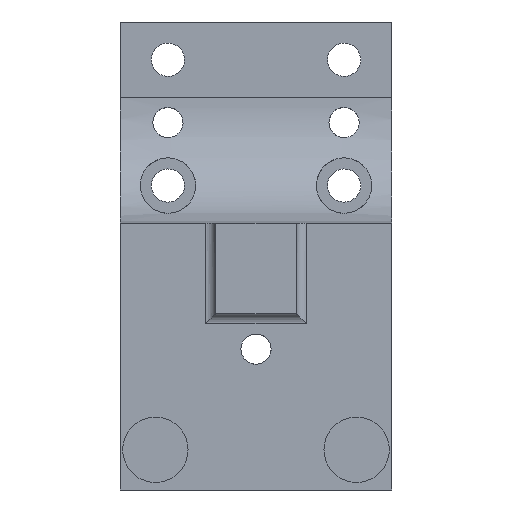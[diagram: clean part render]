
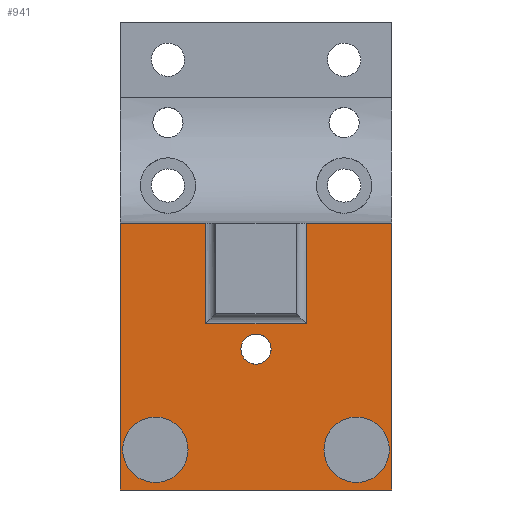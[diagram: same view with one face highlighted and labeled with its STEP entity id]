
A CAD part, front view. The second image highlights one B-rep face of the part: STEP entity #941.
In plain terms, the highlighted planar face has unit normal (0, -1, 0).
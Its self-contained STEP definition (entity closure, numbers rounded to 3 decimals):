
#98=CARTESIAN_POINT('Vertex',(27.,-18.,25.)) ;
#101=CARTESIAN_POINT('Line Origine',(27.,-18.,-1.5)) ;
#105=CARTESIAN_POINT('Vertex',(27.,-18.,-28.)) ;
#240=CARTESIAN_POINT('Vertex',(-27.,-18.,-28.)) ;
#243=CARTESIAN_POINT('Line Origine',(-27.,-18.,-1.5)) ;
#247=CARTESIAN_POINT('Vertex',(-27.,-18.,25.)) ;
#720=CARTESIAN_POINT('Vertex',(-10.,-18.,25.)) ;
#750=CARTESIAN_POINT('Vertex',(10.,-18.,25.)) ;
#753=CARTESIAN_POINT('Line Origine',(18.5,-18.,25.)) ;
#758=CARTESIAN_POINT('Line Origine',(-18.5,-18.,25.)) ;
#848=CARTESIAN_POINT('Axis2P3D Location',(0.,-18.,25.)) ;
#853=CARTESIAN_POINT('Line Origine',(0.,-18.,-28.)) ;
#858=CARTESIAN_POINT('Line Origine',(10.,-18.,15.)) ;
#862=CARTESIAN_POINT('Vertex',(10.,-18.,5.)) ;
#865=CARTESIAN_POINT('Line Origine',(0.,-18.,5.)) ;
#869=CARTESIAN_POINT('Vertex',(-10.,-18.,5.)) ;
#872=CARTESIAN_POINT('Line Origine',(-10.,-18.,15.)) ;
#887=CARTESIAN_POINT('Axis2P3D Location',(-20.,-18.,-20.)) ;
#891=CARTESIAN_POINT('Vertex',(-13.5,-18.,-20.)) ;
#893=CARTESIAN_POINT('Vertex',(-26.5,-18.,-20.)) ;
#896=CARTESIAN_POINT('Axis2P3D Location',(-20.,-18.,-20.)) ;
#905=CARTESIAN_POINT('Axis2P3D Location',(20.,-18.,-20.)) ;
#909=CARTESIAN_POINT('Vertex',(26.5,-18.,-20.)) ;
#911=CARTESIAN_POINT('Vertex',(13.5,-18.,-20.)) ;
#914=CARTESIAN_POINT('Axis2P3D Location',(20.,-18.,-20.)) ;
#923=CARTESIAN_POINT('Axis2P3D Location',(0.,-18.,0.)) ;
#927=CARTESIAN_POINT('Vertex',(-2.633,-18.,1.438)) ;
#929=CARTESIAN_POINT('Vertex',(2.633,-18.,-1.438)) ;
#932=CARTESIAN_POINT('Axis2P3D Location',(0.,-18.,0.)) ;
#102=DIRECTION('Vector Direction',(0.,0.,-1.)) ;
#244=DIRECTION('Vector Direction',(0.,0.,-1.)) ;
#754=DIRECTION('Vector Direction',(1.,0.,0.)) ;
#759=DIRECTION('Vector Direction',(1.,0.,0.)) ;
#849=DIRECTION('Axis2P3D Direction',(0.,-1.,0.)) ;
#850=DIRECTION('Axis2P3D XDirection',(0.,0.,-1.)) ;
#854=DIRECTION('Vector Direction',(1.,0.,0.)) ;
#859=DIRECTION('Vector Direction',(0.,0.,1.)) ;
#866=DIRECTION('Vector Direction',(-1.,0.,0.)) ;
#873=DIRECTION('Vector Direction',(0.,0.,-1.)) ;
#888=DIRECTION('Axis2P3D Direction',(0.,-1.,0.)) ;
#897=DIRECTION('Axis2P3D Direction',(0.,-1.,0.)) ;
#906=DIRECTION('Axis2P3D Direction',(0.,-1.,0.)) ;
#915=DIRECTION('Axis2P3D Direction',(0.,-1.,0.)) ;
#924=DIRECTION('Axis2P3D Direction',(0.,-1.,0.)) ;
#933=DIRECTION('Axis2P3D Direction',(0.,-1.,0.)) ;
#851=AXIS2_PLACEMENT_3D('Plane Axis2P3D',#848,#849,#850) ;
#889=AXIS2_PLACEMENT_3D('Circle Axis2P3D',#887,#888,$) ;
#898=AXIS2_PLACEMENT_3D('Circle Axis2P3D',#896,#897,$) ;
#907=AXIS2_PLACEMENT_3D('Circle Axis2P3D',#905,#906,$) ;
#916=AXIS2_PLACEMENT_3D('Circle Axis2P3D',#914,#915,$) ;
#925=AXIS2_PLACEMENT_3D('Circle Axis2P3D',#923,#924,$) ;
#934=AXIS2_PLACEMENT_3D('Circle Axis2P3D',#932,#933,$) ;
#878=ORIENTED_EDGE('',*,*,#762,.F.) ;
#879=ORIENTED_EDGE('',*,*,#249,.T.) ;
#880=ORIENTED_EDGE('',*,*,#857,.T.) ;
#881=ORIENTED_EDGE('',*,*,#107,.F.) ;
#882=ORIENTED_EDGE('',*,*,#757,.F.) ;
#883=ORIENTED_EDGE('',*,*,#864,.T.) ;
#884=ORIENTED_EDGE('',*,*,#871,.T.) ;
#885=ORIENTED_EDGE('',*,*,#876,.T.) ;
#902=ORIENTED_EDGE('',*,*,#895,.F.) ;
#903=ORIENTED_EDGE('',*,*,#900,.F.) ;
#920=ORIENTED_EDGE('',*,*,#913,.F.) ;
#921=ORIENTED_EDGE('',*,*,#918,.F.) ;
#938=ORIENTED_EDGE('',*,*,#931,.F.) ;
#939=ORIENTED_EDGE('',*,*,#936,.F.) ;
#904=FACE_BOUND('',#901,.T.) ;
#922=FACE_BOUND('',#919,.T.) ;
#940=FACE_BOUND('',#937,.T.) ;
#103=VECTOR('Line Direction',#102,1.) ;
#245=VECTOR('Line Direction',#244,1.) ;
#755=VECTOR('Line Direction',#754,1.) ;
#760=VECTOR('Line Direction',#759,1.) ;
#855=VECTOR('Line Direction',#854,1.) ;
#860=VECTOR('Line Direction',#859,1.) ;
#867=VECTOR('Line Direction',#866,1.) ;
#874=VECTOR('Line Direction',#873,1.) ;
#941=ADVANCED_FACE('PartBody',(#886,#904,#922,#940),#852,.T.) ;
#890=CIRCLE('generated circle',#889,6.5) ;
#899=CIRCLE('generated circle',#898,6.5) ;
#908=CIRCLE('generated circle',#907,6.5) ;
#917=CIRCLE('generated circle',#916,6.5) ;
#926=CIRCLE('generated circle',#925,3.) ;
#935=CIRCLE('generated circle',#934,3.) ;
#107=EDGE_CURVE('',#99,#106,#104,.T.) ;
#249=EDGE_CURVE('',#248,#241,#246,.T.) ;
#757=EDGE_CURVE('',#751,#99,#756,.T.) ;
#762=EDGE_CURVE('',#248,#721,#761,.T.) ;
#857=EDGE_CURVE('',#241,#106,#856,.T.) ;
#864=EDGE_CURVE('',#751,#863,#861,.F.) ;
#871=EDGE_CURVE('',#863,#870,#868,.T.) ;
#876=EDGE_CURVE('',#870,#721,#875,.F.) ;
#895=EDGE_CURVE('',#892,#894,#890,.T.) ;
#900=EDGE_CURVE('',#894,#892,#899,.T.) ;
#913=EDGE_CURVE('',#910,#912,#908,.T.) ;
#918=EDGE_CURVE('',#912,#910,#917,.T.) ;
#931=EDGE_CURVE('',#928,#930,#926,.T.) ;
#936=EDGE_CURVE('',#930,#928,#935,.T.) ;
#877=EDGE_LOOP('',(#878,#879,#880,#881,#882,#883,#884,#885)) ;
#901=EDGE_LOOP('',(#902,#903)) ;
#919=EDGE_LOOP('',(#920,#921)) ;
#937=EDGE_LOOP('',(#938,#939)) ;
#886=FACE_OUTER_BOUND('',#877,.T.) ;
#104=LINE('Line',#101,#103) ;
#246=LINE('Line',#243,#245) ;
#756=LINE('Line',#753,#755) ;
#761=LINE('Line',#758,#760) ;
#856=LINE('Line',#853,#855) ;
#861=LINE('Line',#858,#860) ;
#868=LINE('Line',#865,#867) ;
#875=LINE('Line',#872,#874) ;
#852=PLANE('',#851) ;
#99=VERTEX_POINT('',#98) ;
#106=VERTEX_POINT('',#105) ;
#241=VERTEX_POINT('',#240) ;
#248=VERTEX_POINT('',#247) ;
#721=VERTEX_POINT('',#720) ;
#751=VERTEX_POINT('',#750) ;
#863=VERTEX_POINT('',#862) ;
#870=VERTEX_POINT('',#869) ;
#892=VERTEX_POINT('',#891) ;
#894=VERTEX_POINT('',#893) ;
#910=VERTEX_POINT('',#909) ;
#912=VERTEX_POINT('',#911) ;
#928=VERTEX_POINT('',#927) ;
#930=VERTEX_POINT('',#929) ;
